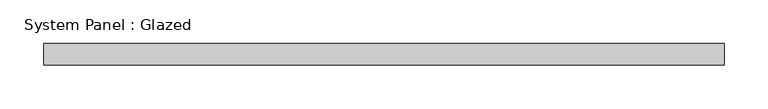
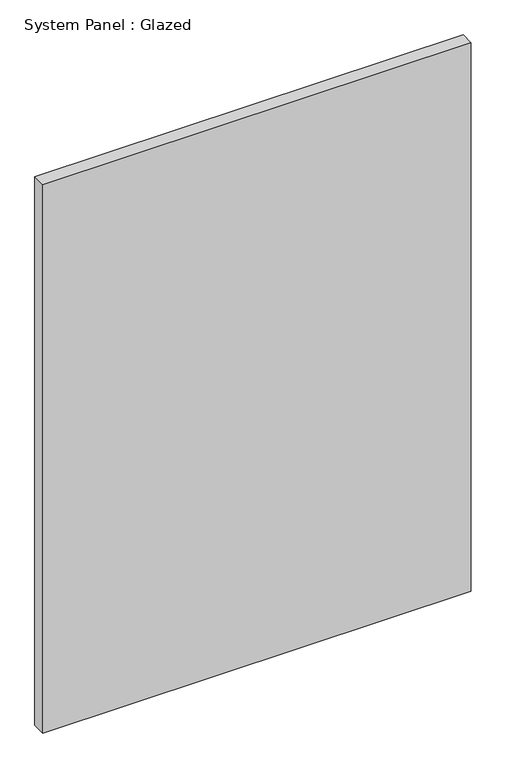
"""IFC4 building model written with IfcOpenShell, lengths in millimetres: plate geometry, System Panel : Glazed."""

from ifc_helpers import new_model, si_unit, origin, origin_with_axes, place, context, project, spatial, polyline, outline, extrude, source, transform, mapped, element, save


def system_panel_glazed_42e5d501(model_context):
    return source(origin(), model_context, "Body", "SweptSolid", [
        extrude(outline(polyline([(390.0, -12.5), (-390.0, -12.5), (-390.0, 12.5), (390.0, 12.5), (390.0, -12.5)])), origin_with_axes(), (0.0, 0.0, 1.0), 1055.0),
    ])


if __name__ == "__main__":
    model = new_model("IFC4")
    model_context = context("Model", 3, world=origin())
    ifc_project = project(units=[si_unit("LENGTHUNIT", "METRE", prefix="MILLI")], contexts=[model_context])
    site = spatial("IfcSite", under=ifc_project)
    building = spatial("IfcBuilding", under=site)
    placement = place(None, origin())
    system_panel_glazed_shape = system_panel_glazed_42e5d501(model_context)
    element("IfcPlate", 1, ObjectType="System Panel : Glazed", at=placement, inside=building, context=model_context, shape_type="MappedRepresentation", body=[
        mapped(system_panel_glazed_shape, transform((0.0, 0.0, 0.0), x_axis=(1.0, 0.0, 0.0), y_axis=(0.0, 1.0, 0.0), z_axis=(0.0, 0.0, 1.0))),
    ])
    save(model, "model.ifc")
